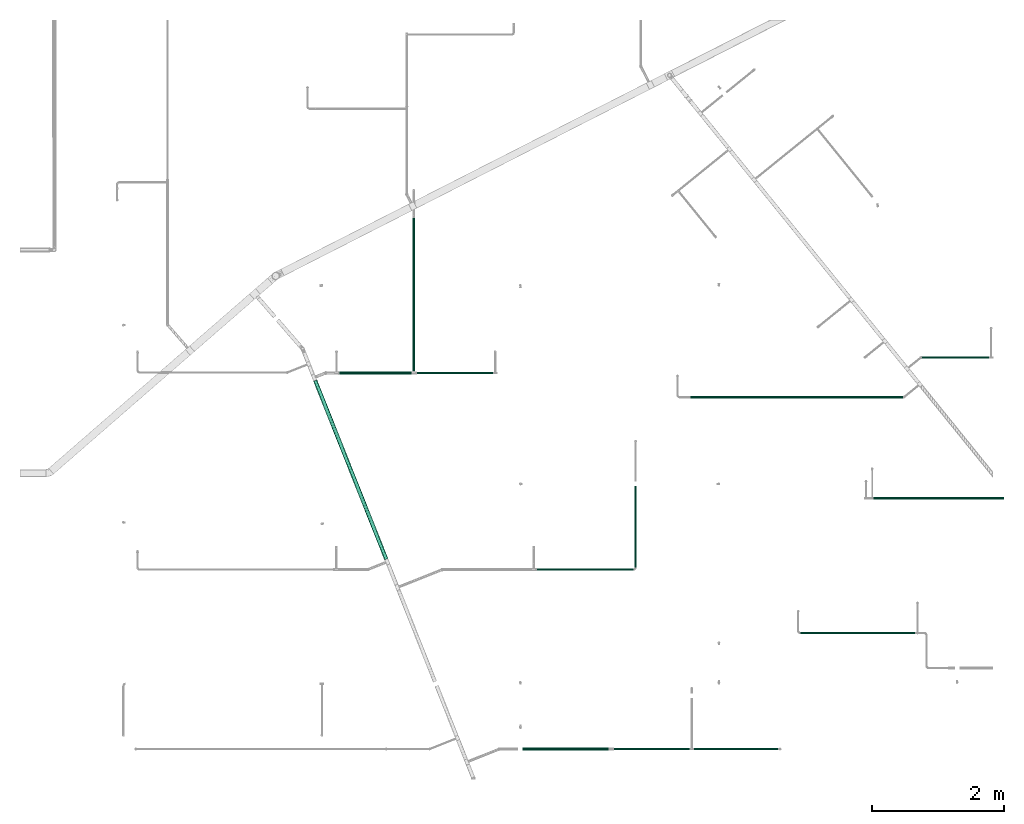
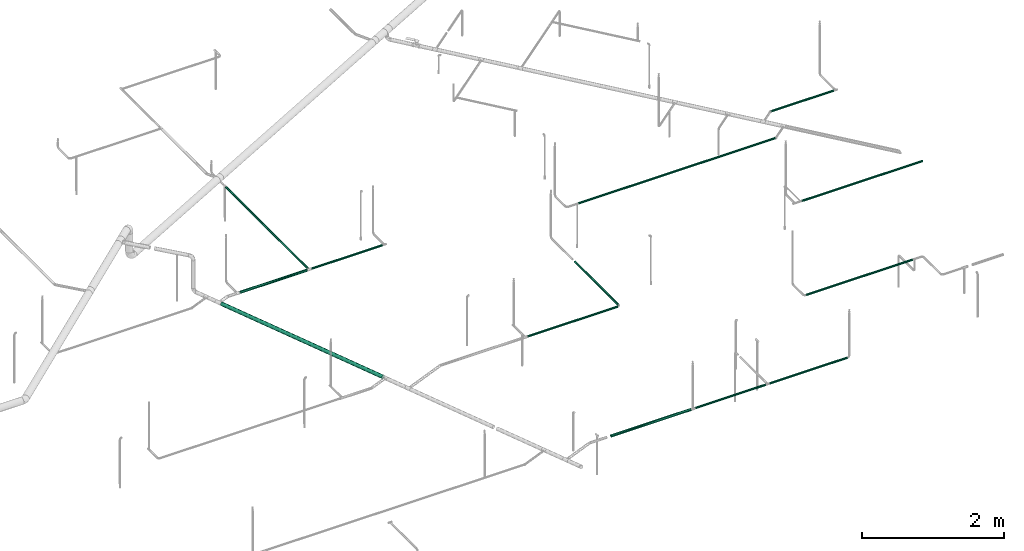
# One storey, part 3 of 94: 13 flow segments.
"""IFC2X3 building model written with IfcOpenShell, lengths in millimetres."""

from ifc_helpers import new_model, entity, si_unit, converted_unit, derived_unit, direction, frame, origin_with_axes, origin_2d_with_axis, place, context, subcontext, project, spatial, hollow_circle, extrude, source, transform, mapped, type_object, element, save


model = new_model("IFC2X3")

# Units and contexts
model_context = context("Model", 3, precision=0.01, world=frame((0.0, 4.29681676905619e-09, 0.0)), true_north=direction((4.01073788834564e-13, 1.0)))
plan_context = context("Plan", 3, precision=0.01, world=frame((0.0, 4.29681676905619e-09, 0.0)), true_north=direction((4.01073788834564e-13, 1.0)))
body_context = subcontext(model_context, "Body", "Model", "MODEL_VIEW")
ifc_project = project(units=[converted_unit("PLANEANGLEUNIT", "DEGREE", entity("IfcPositiveLengthMeasure", 0.0174532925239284), si_unit("PLANEANGLEUNIT", "RADIAN"), dimensions=[0, 0, 0, 0, 0, 0, 0]), si_unit("AREAUNIT", "SQUARE_METRE"), si_unit("LENGTHUNIT", "METRE", prefix="MILLI"), si_unit("MASSUNIT", "GRAM", prefix="KILO"), si_unit("POWERUNIT", "WATT"), si_unit("PRESSUREUNIT", "PASCAL", prefix="KILO"), si_unit("FORCEUNIT", "NEWTON", prefix="KILO"), si_unit("ELECTRICVOLTAGEUNIT", "VOLT"), si_unit("ELECTRICCURRENTUNIT", "AMPERE"), si_unit("THERMODYNAMICTEMPERATUREUNIT", "DEGREE_CELSIUS"), si_unit("TIMEUNIT", "SECOND"), si_unit("VOLUMEUNIT", "CUBIC_METRE"), derived_unit("LINEARVELOCITYUNIT", [(si_unit("LENGTHUNIT", "METRE"), 1), (si_unit("TIMEUNIT", "SECOND"), -1)]), derived_unit("VOLUMETRICFLOWRATEUNIT", [(si_unit("VOLUMEUNIT", "CUBIC_METRE"), 1), (si_unit("TIMEUNIT", "SECOND"), -1)]), derived_unit("THERMALTRANSMITTANCEUNIT", [(si_unit("POWERUNIT", "WATT"), 1), (si_unit("THERMODYNAMICTEMPERATUREUNIT", "KELVIN"), -1), (si_unit("AREAUNIT", "SQUARE_METRE"), -1)]), derived_unit("SOUNDPRESSUREUNIT", [(si_unit("PRESSUREUNIT", "PASCAL"), 1)])], contexts=[model_context, plan_context])

# Site, building, storey
site_placement = place(None, frame((0.0, -4.29681676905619e-09, 0.0), z_axis=(0.0, 0.0, 1.0), x_axis=(1.0, 0.0, 0.0)))
site = spatial("IfcSite", under=ifc_project, at=site_placement, CompositionType="ELEMENT")
building_placement = place(site_placement, frame((0.0, 4.29681676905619e-09, 0.0), z_axis=(0.0, 0.0, 1.0), x_axis=(1.0, 0.0, 0.0)))
building = spatial("IfcBuilding", under=site, at=building_placement, Name="mc-building", CompositionType="ELEMENT")
storey_placement = place(building_placement, frame((0.0, 0.0, 210900.0), z_axis=(0.0, 0.0, 1.0), x_axis=(1.0, 0.0, 0.0)))
storey = spatial("IfcBuildingStorey", under=building, at=storey_placement, Name="Nivå F", CompositionType="ELEMENT", Elevation=210900.0)

# Flow segments
pipe_segment_type = type_object("IfcPipeSegmentType", Name="Stålrør normaltykke", PredefinedType="RIGIDSEGMENT")
shared_shape_1 = source(origin_with_axes(), body_context, "Body", "SweptSolid", [
    extrude(hollow_circle(Radius=30.1, WallThickness=2.0, at=origin_2d_with_axis()), frame((0.0, 0.0, 0.0), z_axis=(1.0, 0.0, 0.0), x_axis=(0.0, 1.0, 0.0)), (0.0, 0.0, 1.0), 2905.7),
])
flow_segment_1_placement = place(storey_placement, frame((718899.46522, 440762.8605, 3600.0), z_axis=(0.0, 0.0, 1.0), x_axis=(0.369451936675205, -0.929249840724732, 0.0)))
element("IfcFlowSegment", 1, at=flow_segment_1_placement, inside=storey, type_object=pipe_segment_type, Name="Stålrør normaltykke", context=body_context, shape_type="MappedRepresentation", body=[
    mapped(shared_shape_1, transform((0.0, 0.0, 0.0), scale=1.0)),
])
shared_shape_2 = source(origin_with_axes(), body_context, "Body", "SweptSolid", [
    extrude(hollow_circle(Radius=16.9, WallThickness=2.0, at=origin_2d_with_axis()), frame((0.0, 0.0, 0.0), z_axis=(1.0, 0.0, 0.0), x_axis=(0.0, 1.0, 0.0)), (0.0, 0.0, 1.0), 1463.3),
])
flow_segment_2_placement = place(storey_placement, frame((722243.93694, 437906.03424, 3600.0), z_axis=(0.0, 0.0, 1.0), x_axis=(1.0, 0.0, 0.0)))
element("IfcFlowSegment", 2, at=flow_segment_2_placement, inside=storey, type_object=pipe_segment_type, Name="Stålrør normaltykke", context=body_context, shape_type="MappedRepresentation", body=[
    mapped(shared_shape_2, transform((0.0, 0.0, 0.0), scale=1.0)),
])
shared_shape_3 = source(origin_with_axes(), body_context, "Body", "SweptSolid", [
    extrude(hollow_circle(Radius=16.9, WallThickness=2.0, at=origin_2d_with_axis()), frame((0.0, 0.0, 0.0), z_axis=(1.0, 0.0, 0.0), x_axis=(0.0, 1.0, 0.0)), (0.0, 0.0, 1.0), 1266.8),
])
flow_segment_3_placement = place(storey_placement, frame((724623.19723, 435194.37907, 3600.0), z_axis=(0.0, 0.0, 1.0), x_axis=(1.0, 0.0, 0.0)))
element("IfcFlowSegment", 3, at=flow_segment_3_placement, inside=storey, type_object=pipe_segment_type, Name="Stålrør normaltykke", context=body_context, shape_type="MappedRepresentation", body=[
    mapped(shared_shape_3, transform((0.0, 0.0, 0.0), scale=1.0)),
])
shared_shape_4 = source(origin_with_axes(), body_context, "Body", "SweptSolid", [
    extrude(hollow_circle(Radius=16.9, WallThickness=2.0, at=origin_2d_with_axis()), frame((0.0, 0.0, 0.0), z_axis=(1.0, 0.0, 0.0), x_axis=(0.0, 1.0, 0.0)), (0.0, 0.0, 1.0), 1144.4),
])
flow_segment_4_placement = place(storey_placement, frame((723411.23068, 435194.37907, 3600.0), z_axis=(0.0, 0.0, 1.0), x_axis=(1.0, 0.0, 0.0)))
element("IfcFlowSegment", 4, at=flow_segment_4_placement, inside=storey, type_object=pipe_segment_type, Name="Stålrør normaltykke", context=body_context, shape_type="MappedRepresentation", body=[
    mapped(shared_shape_4, transform((0.0, 0.0, 0.0), scale=1.0)),
])
shared_shape_5 = source(origin_with_axes(), body_context, "Body", "SweptSolid", [
    extrude(hollow_circle(Radius=21.2, WallThickness=2.0, at=origin_2d_with_axis()), frame((0.0, 0.0, 0.0), z_axis=(1.0, 0.0, 0.0), x_axis=(0.0, 1.0, 0.0)), (0.0, 0.0, 1.0), 1093.8),
])
flow_segment_5_placement = place(storey_placement, frame((719261.2788, 440878.08755, 3600.0), z_axis=(0.0, 0.0, 1.0), x_axis=(1.0, 0.0, 0.0)))
element("IfcFlowSegment", 5, at=flow_segment_5_placement, inside=storey, type_object=pipe_segment_type, Name="Stålrør normaltykke", context=body_context, shape_type="MappedRepresentation", body=[
    mapped(shared_shape_5, transform((0.0, 0.0, 0.0), scale=1.0)),
])
shared_shape_6 = source(origin_with_axes(), body_context, "Body", "SweptSolid", [
    extrude(hollow_circle(Radius=16.9, WallThickness=2.0, at=origin_2d_with_axis()), frame((0.0, 0.0, 0.0), z_axis=(1.0, 0.0, 0.0), x_axis=(0.0, 1.0, 0.0)), (0.0, 0.0, 1.0), 1153.2),
])
flow_segment_6_placement = place(storey_placement, frame((720431.30308, 440878.08755, 3600.0), z_axis=(0.0, 0.0, 1.0), x_axis=(1.0, 0.0, 0.0)))
element("IfcFlowSegment", 6, at=flow_segment_6_placement, inside=storey, type_object=pipe_segment_type, Name="Stålrør normaltykke", context=body_context, shape_type="MappedRepresentation", body=[
    mapped(shared_shape_6, transform((0.0, 0.0, 0.0), scale=1.0)),
])
shared_shape_7 = source(origin_with_axes(), body_context, "Body", "SweptSolid", [
    extrude(hollow_circle(Radius=16.9, WallThickness=2.0, at=origin_2d_with_axis()), frame((0.0, 0.0, 0.0), z_axis=(1.0, 0.0, 0.0), x_axis=(0.0, 1.0, 0.0)), (0.0, 0.0, 1.0), 2308.6),
])
flow_segment_7_placement = place(storey_placement, frame((720388.90308, 443218.452, 3600.0), z_axis=(0.0, 0.0, 1.0), x_axis=(0.0, -1.0, 0.0)))
element("IfcFlowSegment", 7, at=flow_segment_7_placement, inside=storey, type_object=pipe_segment_type, Name="Stålrør normaltykke", context=body_context, shape_type="MappedRepresentation", body=[
    mapped(shared_shape_7, transform((0.0, 0.0, 0.0), scale=1.0)),
])
shared_shape_8 = source(origin_with_axes(), body_context, "Body", "SweptSolid", [
    extrude(hollow_circle(Radius=16.9, WallThickness=2.0, at=origin_2d_with_axis()), frame((0.0, 0.0, 0.0), z_axis=(1.0, 0.0, 0.0), x_axis=(0.0, 1.0, 0.0)), (0.0, 0.0, 1.0), 1014.2),
])
flow_segment_8_placement = place(storey_placement, frame((728065.61381, 441112.69714, 3500.0), z_axis=(0.0, 0.0, 1.0), x_axis=(1.0, 0.0, 0.0)))
element("IfcFlowSegment", 8, at=flow_segment_8_placement, inside=storey, type_object=pipe_segment_type, Name="Stålrør normaltykke", context=body_context, shape_type="MappedRepresentation", body=[
    mapped(shared_shape_8, transform((0.0, 0.0, 0.0), scale=1.0)),
])
shared_shape_9 = source(origin_with_axes(), body_context, "Body", "SweptSolid", [
    extrude(hollow_circle(Radius=16.9, WallThickness=2.0, at=origin_2d_with_axis()), frame((0.0, 0.0, 0.0), z_axis=(1.0, 0.0, 0.0), x_axis=(0.0, 1.0, 0.0)), (0.0, 0.0, 1.0), 1735.3),
])
flow_segment_9_placement = place(storey_placement, frame((727966.2, 436948.06941, 3500.0), z_axis=(0.0, 0.0, 1.0), x_axis=(-1.0, 0.0, 0.0)))
element("IfcFlowSegment", 9, at=flow_segment_9_placement, inside=storey, type_object=pipe_segment_type, Name="Stålrør normaltykke", context=body_context, shape_type="MappedRepresentation", body=[
    mapped(shared_shape_9, transform((0.0, 0.0, 0.0), scale=1.0)),
])
shared_shape_10 = source(origin_with_axes(), body_context, "Body", "SweptSolid", [
    extrude(hollow_circle(Radius=21.2, WallThickness=2.0, at=origin_2d_with_axis()), frame((0.0, 0.0, 0.0), z_axis=(1.0, 0.0, 0.0), x_axis=(0.0, 1.0, 0.0)), (0.0, 0.0, 1.0), 1301.2),
])
flow_segment_10_placement = place(storey_placement, frame((722033.8, 435194.37907, 3600.0), z_axis=(0.0, 0.0, 1.0), x_axis=(1.0, 0.0, 0.0)))
element("IfcFlowSegment", 10, at=flow_segment_10_placement, inside=storey, type_object=pipe_segment_type, Name="Stålrør normaltykke", context=body_context, shape_type="MappedRepresentation", body=[
    mapped(shared_shape_10, transform((0.0, 0.0, 0.0), scale=1.0)),
])
shared_shape_11 = source(origin_with_axes(), body_context, "Body", "SweptSolid", [
    extrude(hollow_circle(Radius=16.9, WallThickness=2.0, at=origin_2d_with_axis()), frame((0.0, 0.0, 0.0), z_axis=(1.0, 0.0, 0.0), x_axis=(0.0, 1.0, 0.0)), (0.0, 0.0, 1.0), 3210.3),
])
flow_segment_11_placement = place(storey_placement, frame((727782.62339, 440510.4939, 3500.0), z_axis=(0.0, 0.0, 1.0), x_axis=(-1.0, 0.0, 0.0)))
element("IfcFlowSegment", 11, at=flow_segment_11_placement, inside=storey, type_object=pipe_segment_type, Name="Stålrør normaltykke", context=body_context, shape_type="MappedRepresentation", body=[
    mapped(shared_shape_11, transform((0.0, 0.0, 0.0), scale=1.0)),
])
shared_shape_12 = source(origin_with_axes(), body_context, "Body", "SweptSolid", [
    extrude(hollow_circle(Radius=16.9, WallThickness=2.0, at=origin_2d_with_axis()), frame((0.0, 0.0, 0.0), z_axis=(1.0, 0.0, 0.0), x_axis=(0.0, 1.0, 0.0)), (0.0, 0.0, 1.0), 1971.1),
])
flow_segment_12_placement = place(storey_placement, frame((729308.31846, 438982.74228, 3500.0), z_axis=(0.0, 0.0, 1.0), x_axis=(-1.0, 0.0, 0.0)))
element("IfcFlowSegment", 12, at=flow_segment_12_placement, inside=storey, type_object=pipe_segment_type, Name="Stålrør normaltykke", context=body_context, shape_type="MappedRepresentation", body=[
    mapped(shared_shape_12, transform((0.0, 0.0, 0.0), scale=1.0)),
])
shared_shape_13 = source(origin_with_axes(), body_context, "Body", "SweptSolid", [
    extrude(hollow_circle(Radius=16.9, WallThickness=2.0, at=origin_2d_with_axis()), frame((0.0, 0.0, 0.0), z_axis=(1.0, 0.0, 0.0), x_axis=(0.0, 1.0, 0.0)), (0.0, 0.0, 1.0), 1227.1),
])
flow_segment_13_placement = place(storey_placement, frame((723741.0277, 437939.83424, 3600.0), z_axis=(0.0, 0.0, 1.0), x_axis=(0.0, 1.0, 0.0)))
element("IfcFlowSegment", 13, at=flow_segment_13_placement, inside=storey, type_object=pipe_segment_type, Name="Stålrør normaltykke", context=body_context, shape_type="MappedRepresentation", body=[
    mapped(shared_shape_13, transform((0.0, 0.0, 0.0), scale=1.0)),
])

save(model, "model.ifc")
